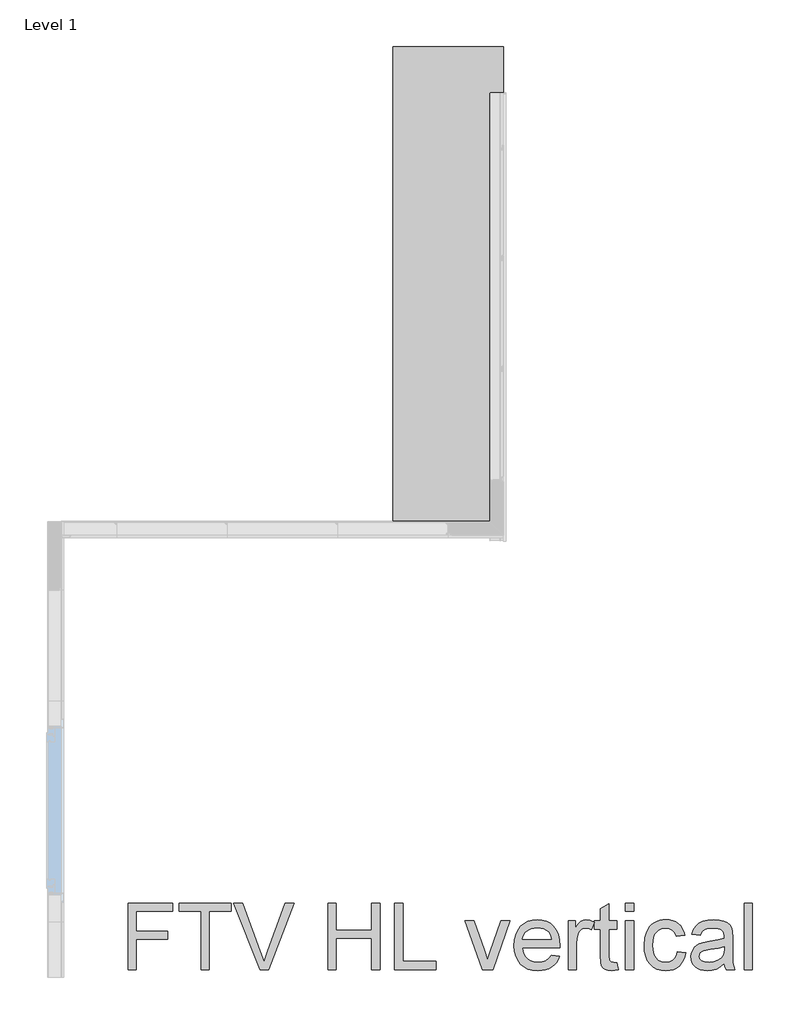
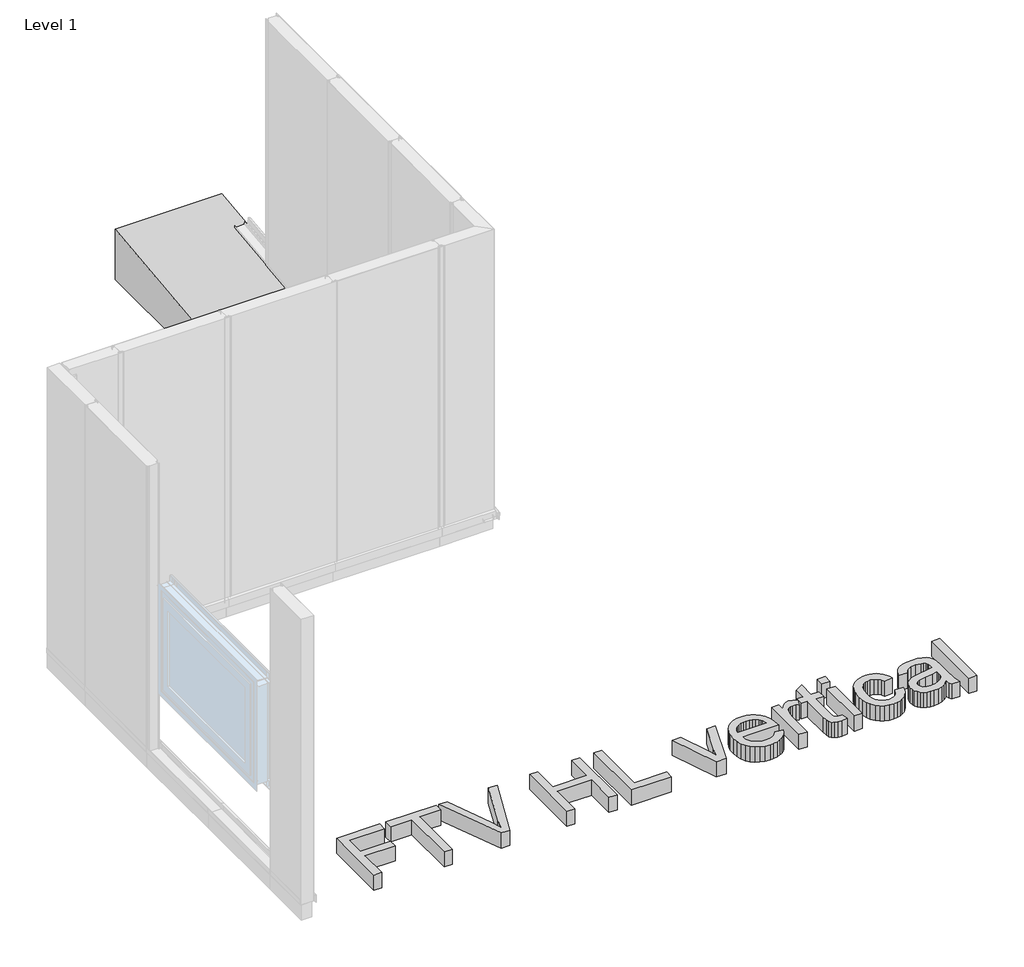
# One storey, part 12 of 12: 2 proxies.
"""IFC4 building model written with IfcOpenShell, lengths in millimetres."""

import ifcopenshell
import ifcopenshell.guid

model = None  # the IFC model being written
_history = None  # IfcOwnerHistory: only IFC2X3 demands one
_inside = {}  # id of a spatial element -> (the spatial element, [elements in it])
_under = {}  # id of a project, library or spatial element -> (it, [spatial elements below it])
_declared = {}  # id of a project -> (the project, [libraries it declares])
_typed = {}  # id of a type object -> (the type object, [elements of that type])
_made_of = {}  # id of a material, layer set ... -> (it, [elements and type objects made of it])


def new_model(schema):
    """Start an empty IFC model of exactly this schema.

    Asked for "IFC4X3", IfcOpenShell would pick the latest addendum, in which some entities
    have other attributes; the version numbers below select the first issue.
    IFC2X3 requires an IfcOwnerHistory on every rooted entity: one is made here for all.
    """
    global model, _history
    if schema == "IFC4X3":
        model = ifcopenshell.file(schema_version=(4, 3, 0, 0))
    else:
        model = ifcopenshell.file(schema=schema)
    _inside.clear()
    _under.clear()
    _declared.clear()
    _typed.clear()
    _made_of.clear()
    _history = None
    if model.schema == "IFC2X3":
        org = make("IfcOrganization", Name="unknown")
        user = make(
            "IfcPersonAndOrganization",
            ThePerson=make("IfcPerson", FamilyName="unknown"),
            TheOrganization=org,
        )
        app = make(
            "IfcApplication",
            ApplicationDeveloper=org,
            Version="unknown",
            ApplicationFullName="unknown",
            ApplicationIdentifier="unknown",
        )
        _history = make(
            "IfcOwnerHistory",
            OwningUser=user,
            OwningApplication=app,
            ChangeAction="ADDED",
            CreationDate=0,
        )
    return model


def make(cls, **values):
    """One entity of the class cls with the attributes given. An attribute that is None is left unset."""
    return model.create_entity(
        cls, **{name: value for name, value in values.items() if value is not None}
    )


def rooted(cls, **values):
    """An entity with a GlobalId (a new one), such as an element, a storey or a relation."""
    return make(cls, GlobalId=ifcopenshell.guid.new(), OwnerHistory=_history, **values)


def si_unit(unit_type, name, prefix=None):
    """IfcSIUnit, for example si_unit("LENGTHUNIT", "METRE", prefix="MILLI")."""
    return make("IfcSIUnit", UnitType=unit_type, Prefix=prefix, Name=name)


def assignment(units):
    """IfcUnitAssignment: the units of a project."""
    return None if units is None else make("IfcUnitAssignment", Units=units)


def point(xyz):
    """IfcCartesianPoint."""
    return None if xyz is None else make("IfcCartesianPoint", Coordinates=xyz)


def direction(xyz):
    """IfcDirection."""
    return None if xyz is None else make("IfcDirection", DirectionRatios=xyz)


def frame(location, z_axis=None, x_axis=None):
    """IfcAxis2Placement3D, a coordinate frame: its origin and axes. An axis left out is left unset."""
    return make(
        "IfcAxis2Placement3D",
        Location=point(location),
        Axis=direction(z_axis),
        RefDirection=direction(x_axis),
    )


def origin():
    """The frame at (0, 0, 0) with its axes left unset."""
    return frame((0.0, 0.0, 0.0))


def origin_with_axes():
    """The frame at (0, 0, 0) with the z axis (0, 0, 1) and the x axis (1, 0, 0) written out."""
    return frame((0.0, 0.0, 0.0), z_axis=(0.0, 0.0, 1.0), x_axis=(1.0, 0.0, 0.0))


def place(relative_to, where):
    """IfcLocalPlacement: puts the frame where relative to a parent placement (None: the world)."""
    return make(
        "IfcLocalPlacement", PlacementRelTo=relative_to, RelativePlacement=where
    )


def context(
    kind, dimensions, precision=None, world=None, true_north=None, identifier=None
):
    """IfcGeometricRepresentationContext, for example the 3D "Model" context."""
    return make(
        "IfcGeometricRepresentationContext",
        ContextIdentifier=identifier,
        ContextType=kind,
        CoordinateSpaceDimension=dimensions,
        Precision=precision,
        WorldCoordinateSystem=world,
        TrueNorth=true_north,
    )


def project(units=None, contexts=None):
    """IfcProject with its units and contexts."""
    return rooted(
        "IfcProject",
        Name="project",
        RepresentationContexts=contexts,
        UnitsInContext=assignment(units),
    )


def spatial(cls, under=None, at=None, **own):
    """A site, building, storey or space (cls), placed at a placement, below another one or the project."""
    s = rooted(cls, ObjectPlacement=at, **own)
    if under is not None:
        _under.setdefault(under.id(), (under, []))[1].append(s)
    return s


def polyline(points):
    """IfcPolyline through the points."""
    return make("IfcPolyline", Points=[point(p) for p in points])


def outline(outer, holes=None, kind="AREA"):
    """IfcArbitraryClosedProfileDef: a profile drawn as a closed curve; with holes, ...WithVoids."""
    if holes is None:
        return make("IfcArbitraryClosedProfileDef", ProfileType=kind, OuterCurve=outer)
    return make(
        "IfcArbitraryProfileDefWithVoids",
        ProfileType=kind,
        OuterCurve=outer,
        InnerCurves=holes,
    )


def extrude(swept, where, along, depth):
    """IfcExtrudedAreaSolid: the profile swept, set in the frame where, extruded along a direction by depth."""
    return make(
        "IfcExtrudedAreaSolid",
        SweptArea=swept,
        Position=where,
        ExtrudedDirection=direction(along),
        Depth=depth,
    )


def shape(context_of_items, identifier, shape_type, items):
    """IfcShapeRepresentation: the items that make up one representation, for example the "Body"."""
    return make(
        "IfcShapeRepresentation",
        ContextOfItems=context_of_items,
        RepresentationIdentifier=identifier,
        RepresentationType=shape_type,
        Items=items,
    )


def made_of(thing, what):
    """Note that an element or type object is made of a material, layer set ...; save() writes the relation."""
    if what is not None:
        _made_of.setdefault(what.id(), (what, []))[1].append(thing)
    return thing


def element(
    cls,
    number,
    at=None,
    inside=None,
    cuts=None,
    type_object=None,
    material=None,
    context=None,
    identifier="Body",
    shape_type=None,
    held_by="IfcProductDefinitionShape",
    body=None,
    shapes=None,
    **own,
):
    """One element of the class cls, such as IfcWall. Its Tag is "e" and its number.

    at: its placement. inside: the storey or other place that contains it. cuts: it is an
    opening in that element (IfcRelVoidsElement). A single representation is given by context,
    identifier, shape_type and body (its items); several are given by shapes. held_by: the class
    of the entity that holds the representations. save() writes the other relations.
    """
    e = rooted(cls, Tag="e%d" % number, ObjectPlacement=at, **own)
    if body is not None:
        shapes = [shape(context, identifier, shape_type, body)]
    if shapes is not None:
        e.Representation = make(held_by, Representations=shapes)
    if inside is not None:
        _inside.setdefault(inside.id(), (inside, []))[1].append(e)
    if cuts is not None:
        rooted(
            "IfcRelVoidsElement", RelatingBuildingElement=cuts, RelatedOpeningElement=e
        )
    if type_object is not None:
        _typed.setdefault(type_object.id(), (type_object, []))[1].append(e)
    return made_of(e, material)


def aggregate(whole, parts):
    """IfcRelAggregates: a whole, such as a stair, and the parts it consists of."""
    return rooted("IfcRelAggregates", RelatingObject=whole, RelatedObjects=parts)


def save(model, path):
    """Write the relations noted so far, then the file.

    IfcRelAggregates (storeys below a building ...), IfcRelContainedInSpatialStructure (elements
    in a storey), IfcRelDefinesByType, IfcRelAssociatesMaterial and IfcRelDeclares: one each for
    every whole, place, type object, material and project.
    """
    for whole, parts in _under.values():
        aggregate(whole, parts)
    for where, things in _inside.values():
        rooted(
            "IfcRelContainedInSpatialStructure",
            RelatedElements=things,
            RelatingStructure=where,
        )
    for kind, things in _typed.values():
        rooted("IfcRelDefinesByType", RelatedObjects=things, RelatingType=kind)
    for what, things in _made_of.values():
        rooted("IfcRelAssociatesMaterial", RelatedObjects=things, RelatingMaterial=what)
    for by, libraries in _declared.values():
        rooted("IfcRelDeclares", RelatingContext=by, RelatedDefinitions=libraries)
    model.write(path)


model = new_model("IFC4")

# Units and contexts
model_context = context("Model", 3, world=origin())
ifc_project = project(units=[si_unit("LENGTHUNIT", "METRE", prefix="MILLI")], contexts=[model_context])

# Site, building, storey
site = spatial("IfcSite", under=ifc_project)
building = spatial("IfcBuilding", under=site)
storey = spatial("IfcBuildingStorey", under=building, Name="Level 1", Elevation=0.0)

# Proxies
placement = place(None, origin())
element("IfcBuildingElementProxy", 1, Name="600mm Arial", ObjectType="600mm Arial", at=placement, inside=storey, context=model_context, shape_type="SweptSolid", body=[
    extrude(outline(polyline([(-7390.6707281, 40.1047651), (-7390.6707281, 642.842626), (-6985.7062278, 642.842626), (-6985.7062278, 567.5003934), (-7315.3284955, 567.5003934), (-7315.3284955, 388.562591), (-7032.7951232, 388.562591), (-7032.7951232, 313.2203583), (-7315.3284955, 313.2203583), (-7315.3284955, 40.1047651), (-7390.6707281, 40.1047651)])), origin_with_axes(), (0.0, 0.0, 1.0), 150.0),
    extrude(outline(polyline([(-6731.4261928, 40.1047651), (-6731.4261928, 567.5003934), (-6929.1995534, 567.5003934), (-6929.1995534, 642.842626), (-6458.3105995, 642.842626), (-6458.3105995, 567.5003934), (-6656.0839602, 567.5003934), (-6656.0839602, 40.1047651), (-6731.4261928, 40.1047651)])), origin_with_axes(), (0.0, 0.0, 1.0), 150.0),
    extrude(outline(polyline([(-6195.4957022, 40.1047651), (-6435.354763, 642.842626), (-6354.7150297, 642.842626), (-6194.171327, 208.5947189), (-6161.6505586, 110.7381082), (-6129.5712487, 208.5947189), (-5968.5860876, 642.842626), (-5887.9463542, 642.842626), (-6117.651872, 40.1047651), (-6195.4957022, 40.1047651)])), origin_with_axes(), (0.0, 0.0, 1.0), 150.0),
    extrude(outline(polyline([(-5582.4571454, 40.1047651), (-5582.4571454, 642.842626), (-5507.1149128, 642.842626), (-5507.1149128, 397.98037), (-5186.9104242, 397.98037), (-5186.9104242, 642.842626), (-5111.5681916, 642.842626), (-5111.5681916, 40.1047651), (-5186.9104242, 40.1047651), (-5186.9104242, 322.6381374), (-5507.1149128, 322.6381374), (-5507.1149128, 40.1047651), (-5582.4571454, 40.1047651)])), origin_with_axes(), (0.0, 0.0, 1.0), 150.0),
    extrude(outline(polyline([(-4979.7192845, 40.1047651), (-4979.7192845, 642.842626), (-4904.3770519, 642.842626), (-4904.3770519, 115.4469977), (-4603.0081215, 115.4469977), (-4603.0081215, 40.1047651), (-4979.7192845, 40.1047651)])), origin_with_axes(), (0.0, 0.0, 1.0), 150.0),
    extrude(outline(polyline([(-4183.622647, 40.1047651), (-4339.3103073, 482.7403817), (-4259.5534908, 482.7403817), (-4165.2285472, 217.5710396), (-4136.8280572, 128.396444), (-4109.0161783, 212.5678445), (-4014.1026236, 482.7403817), (-3934.345807, 482.7403817), (-4088.120481, 40.1047651), (-4183.622647, 40.1047651)])), origin_with_axes(), (0.0, 0.0, 1.0), 150.0),
    extrude(outline(polyline([(-3558.5175608, 171.9536722), (-3484.6468561, 162.5358931), (-3495.9730231, 132.9489837), (-3511.2631185, 106.8753472), (-3530.5171424, 84.3149839), (-3553.7350948, 65.2678936), (-3580.6778524, 50.1387465), (-3611.106292, 39.3322129), (-3645.0204134, 32.8482928), (-3682.4202167, 30.686986), (-3729.1688213, 34.4163898), (-3770.8222602, 45.6046009), (-3807.3805334, 64.2516196), (-3838.8436411, 90.3574457), (-3864.1447253, 123.1955123), (-3882.2169283, 162.0392524), (-3893.0602501, 206.8886662), (-3896.6746907, 257.7437535), (-3893.0234619, 310.3232876), (-3882.0697755, 356.667222), (-3863.8136315, 396.7755565), (-3838.2550299, 430.6482912), (-3806.8746957, 457.5588591), (-3771.153354, 476.7806934), (-3731.0910047, 488.3137939), (-3686.6876479, 492.1581608), (-3643.7144323, 488.322991), (-3604.8522981, 476.8174816), (-3570.1012451, 457.6416326), (-3539.4612734, 430.795444), (-3514.4498963, 396.9962857), (-3496.5846269, 356.9615276), (-3485.8654652, 310.6911696), (-3482.2924114, 258.1852119), (-3482.7338698, 237.8781257), (-3821.3324581, 237.8781257), (-3816.9684579, 207.8129697), (-3808.2910414, 181.4818159), (-3795.3002084, 158.8846643), (-3777.9959591, 140.021515), (-3757.3347865, 125.1498854), (-3734.273184, 114.5272927), (-3708.8111514, 108.1537372), (-3680.9486888, 106.0292187), (-3640.8495513, 109.965556), (-3607.0779841, 121.774568), (-3579.6339873, 142.1920188), (-3558.5175608, 171.9536722)]), holes=[polyline([(-3821.3324581, 313.2203583), (-3557.634644, 313.2203583), (-3567.8249752, 353.0251902), (-3576.5897638, 368.6785691), (-3587.8009676, 381.4992566), (-3608.347177, 396.9503004), (-3631.7260778, 407.9867603), (-3657.93767, 414.6086362), (-3686.9819535, 416.8159282), (-3713.4740557, 415.0546931), (-3737.7680629, 409.770988), (-3759.8639752, 400.9648127), (-3779.7617927, 388.6361673), (-3796.4590367, 373.355269), (-3808.953229, 355.6923347), (-3817.2443694, 335.6473645), (-3821.3324581, 313.2203583)])]), origin_with_axes(), (0.0, 0.0, 1.0), 150.0),
    extrude(outline(polyline([(-3406.9501787, 40.1047651), (-3406.9501787, 482.7403817), (-3341.0257252, 482.7403817), (-3341.0257252, 417.2573866), (-3316.6719371, 455.2228085), (-3294.2311354, 477.5900338), (-3271.7167573, 488.516129), (-3247.14224, 492.1581608), (-3209.6182765, 486.3456253), (-3171.5057018, 468.9080187), (-3196.6688303, 401.3648844), (-3223.156334, 412.9531672), (-3249.6438376, 416.8159282), (-3272.1398216, 413.10032), (-3292.2445727, 401.9534956), (-3308.4865627, 384.2215834), (-3319.3942639, 360.7507121), (-3328.5545256, 318.6650119), (-3331.6079461, 272.7533389), (-3331.6079461, 40.1047651), (-3406.9501787, 40.1047651)])), origin_with_axes(), (0.0, 0.0, 1.0), 150.0),
    extrude(outline(polyline([(-2964.3145622, 102.9390099), (-2954.8967831, 37.8974731), (-3011.2563047, 30.686986), (-3047.4191049, 33.813983), (-3074.3848551, 43.1949739), (-3093.4411425, 57.6527363), (-3105.8755539, 76.0100478), (-3112.718159, 107.5375348), (-3114.9990274, 161.5058235), (-3114.9990274, 407.3981491), (-3171.5057018, 407.3981491), (-3171.5057018, 482.7403817), (-3114.9990274, 482.7403817), (-3114.9990274, 590.3090771), (-3039.6567948, 634.6020693), (-3039.6567948, 482.7403817), (-2964.3145622, 482.7403817), (-2964.3145622, 407.3981491), (-3039.6567948, 407.3981491), (-3039.6567948, 163.7131155), (-3035.6836692, 124.8647768), (-3022.8077994, 111.1059902), (-3011.9368864, 107.2984115), (-2997.1296361, 106.0292187), (-2964.3145622, 102.9390099)])), origin_with_axes(), (0.0, 0.0, 1.0), 150.0),
    extrude(outline(polyline([(-2888.9723295, 567.5003934), (-2888.9723295, 642.842626), (-2813.6300969, 642.842626), (-2813.6300969, 567.5003934), (-2888.9723295, 567.5003934)])), origin_with_axes(), (0.0, 0.0, 1.0), 150.0),
    extrude(outline(polyline([(-2888.9723295, 40.1047651), (-2888.9723295, 482.7403817), (-2813.6300969, 482.7403817), (-2813.6300969, 40.1047651), (-2888.9723295, 40.1047651)])), origin_with_axes(), (0.0, 0.0, 1.0), 150.0),
    extrude(outline(polyline([(-2418.0833757, 200.2070094), (-2342.7411431, 190.7892303), (-2350.9357145, 155.238034), (-2363.747205, 123.7795249), (-2381.1756145, 96.413703), (-2403.2209431, 73.1405683), (-2428.9542887, 54.5671261), (-2457.4467492, 41.3003816), (-2488.6983247, 33.3403349), (-2522.7090151, 30.686986), (-2564.9648608, 34.3887986), (-2602.8521078, 45.4942363), (-2636.3707561, 64.0032992), (-2665.5208057, 89.9159873), (-2689.1158371, 122.7448568), (-2705.969431, 162.0024642), (-2716.0815874, 207.6888095), (-2719.4523062, 259.8038926), (-2713.6949529, 326.8503863), (-2706.4982614, 357.0213084), (-2696.4228933, 384.9573474), (-2683.3998706, 410.0974832), (-2667.3602156, 431.8806959), (-2648.3039283, 450.3069853), (-2626.2310086, 465.3763515), (-2602.1393364, 477.0933931), (-2577.0267917, 485.4627085), (-2550.8933745, 490.4842977), (-2523.7390847, 492.1581608), (-2490.3124069, 489.8588983), (-2460.0771055, 482.9611109), (-2433.0331803, 471.4647986), (-2409.1806314, 455.3699613), (-2388.9241291, 435.044481), (-2372.6683434, 410.8562399), (-2360.4132744, 382.8052377), (-2352.1589222, 350.8914746), (-2427.5011548, 341.4736956), (-2441.1679709, 374.3439518), (-2462.4499443, 397.9067936), (-2490.1698527, 412.0886445), (-2523.1504735, 416.8159282), (-2548.7504619, 414.4890746), (-2571.8396556, 407.5085137), (-2592.4180547, 395.8742456), (-2610.4856592, 379.5862703), (-2625.1963405, 358.2675086), (-2635.70397, 331.5408817), (-2642.0085477, 299.4063894), (-2644.1100736, 261.8640318), (-2642.0545329, 223.7560556), (-2635.887911, 191.2490828), (-2625.6102077, 164.3431134), (-2611.2214232, 143.0381474), (-2593.5125036, 126.8467411), (-2573.2743954, 115.2814508), (-2550.5070984, 108.3422767), (-2525.2106127, 106.0292187), (-2486.1967271, 111.804966), (-2469.3247391, 119.0246501), (-2454.2093876, 129.132208), (-2441.273737, 142.238004), (-2430.9408514, 158.452403), (-2423.210731, 177.7754048), (-2418.0833757, 200.2070094)])), origin_with_axes(), (0.0, 0.0, 1.0), 150.0),
    extrude(outline(polyline([(-1994.2833173, 96.6114396), (-2030.2805705, 65.7461402), (-2067.3446815, 45.5494186), (-2106.3217789, 34.4025942), (-2148.0579913, 30.686986), (-2181.6042307, 32.9218692), (-2211.0209947, 39.6265185), (-2236.3082834, 50.8009341), (-2257.4660966, 66.445116), (-2274.1725377, 85.5657827), (-2286.1057099, 107.1696528), (-2293.2656133, 131.2567265), (-2295.6522477, 157.8270036), (-2292.0470042, 189.060185), (-2281.2312735, 217.4238868), (-2264.547825, 241.7040985), (-2243.339428, 260.6868094), (-2218.4154228, 275.0342072), (-2190.5851499, 285.4084795), (-2125.3964604, 296.739245), (-2048.3619706, 308.6586216), (-1994.7247757, 322.6381374), (-1994.2833173, 339.4135564), (-1999.4704534, 373.0379708), (-2005.9543736, 385.4907763), (-2015.0318618, 395.0373141), (-2030.7220289, 404.5654577), (-2049.8334985, 411.3712747), (-2098.3203455, 416.8159282), (-2143.2019489, 413.1922905), (-2174.5454949, 402.3213776), (-2195.9194388, 382.2166265), (-2210.892236, 350.8914746), (-2286.2344686, 360.3092537), (-2273.1562637, 401.5120372), (-2253.6401239, 433.8856528), (-2225.8650332, 458.644111), (-2188.0099759, 477.0014226), (-2141.7120268, 488.3689762), (-2088.6082608, 492.1581608), (-2037.6749986, 488.8104346), (-1997.2999496, 478.7672562), (-1966.8577145, 463.6657003), (-1945.7228939, 445.1428418), (-1931.7065899, 422.2421876), (-1922.6199046, 394.0072445), (-1918.9410847, 328.0827909), (-1918.9410847, 234.3464586), (-1915.1151119, 103.4540447), (-1909.4497292, 71.0988232), (-1900.1055265, 40.1047651), (-1975.4477591, 40.1047651), (-1987.5142886, 66.2979632), (-1994.2833173, 96.6114396)]), holes=[polyline([(-1994.2833173, 247.2959048), (-2044.9038798, 234.7511288), (-2115.8315285, 224.1929155), (-2180.652336, 211.9792333), (-2197.5197255, 203.628312), (-2210.0093192, 192.1136055), (-2217.7348411, 178.3180307), (-2220.3100151, 163.1245043), (-2214.6998147, 140.7204908), (-2197.8692134, 122.3631792), (-2170.1860933, 110.1127088), (-2132.0183363, 106.0292187), (-2091.5513168, 110.5357731), (-2055.7931869, 124.0554364), (-2026.8040856, 143.9762465), (-2006.6441523, 167.686241), (-1997.7046198, 192.1136055), (-1994.7247757, 225.9587491), (-1994.2833173, 247.2959048)])]), origin_with_axes(), (0.0, 0.0, 1.0), 150.0),
    extrude(outline(polyline([(-1815.3455148, 40.1047651), (-1815.3455148, 642.842626), (-1740.0032822, 642.842626), (-1740.0032822, 40.1047651), (-1815.3455148, 40.1047651)])), origin_with_axes(), (0.0, 0.0, 1.0), 150.0),
])
element("IfcBuildingElementProxy", 2, Name="Mass 8 : Mass 2", ObjectType="Mass 8 : Mass 2", at=placement, inside=storey, context=model_context, shape_type="SweptSolid", body=[
    extrude(outline(polyline([(4089.6069121, 150.0), (8389.6069121, 650.0), (8389.6069121, 150.0), (4089.6069121, 150.0)])), frame((-4994.1155057, 0.0, 0.0), z_axis=(1.0, 0.0, 0.0), x_axis=(0.0, 1.0, 0.0)), (0.0, 0.0, 1.0), 1000.0),
])

save(model, "model.ifc")
